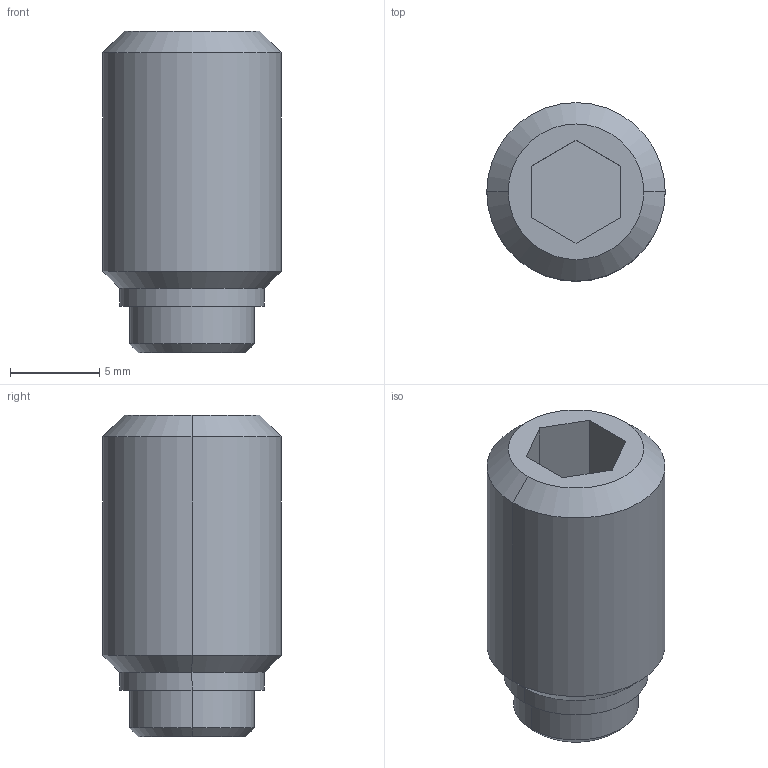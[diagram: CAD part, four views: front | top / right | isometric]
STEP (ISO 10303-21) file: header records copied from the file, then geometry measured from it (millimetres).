
FILE_DESCRIPTION (( 'STEP AP203' ), '1' );
FILE_NAME ('hssb10x18.STEP', '2021-10-26T01:21:30', ( '' ), ( '' ), 'SwSTEP 2.0', 'SolidWorks 2020', '' );
FILE_SCHEMA (( 'CONFIG_CONTROL_DESIGN' ));
Length unit declared in the file: millimetre
Products named in the file (1): hssb10x18
Bounding box: 10 x 10 x 18 mm (x, y, z)
Volume: 1116 mm3; surface area: 746.6 mm2
Topology: 1 solids, 1 shells, 22 faces, 46 edges, 28 vertices
Faces by surface type: plane 10, cone 6, cylinder 6
Entity records: 659 total; most frequent: DIRECTION 108, CARTESIAN_POINT 97, ORIENTED_EDGE 92, EDGE_CURVE 46, AXIS2_PLACEMENT_3D 39, VECTOR 30, LINE 30, VERTEX_POINT 28
